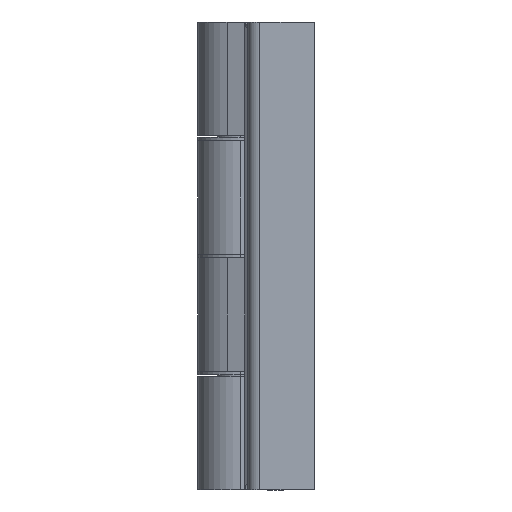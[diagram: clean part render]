
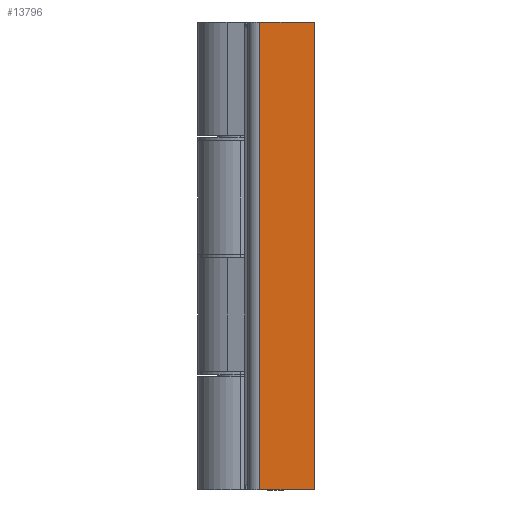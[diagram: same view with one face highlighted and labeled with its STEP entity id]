
A CAD part, left-side view. The second image highlights one B-rep face of the part: STEP entity #13796.
In plain terms, the highlighted planar face has unit normal (-1, 0, 0) as drawn and (1, 0, 0) by its records, which use the part's own axes.
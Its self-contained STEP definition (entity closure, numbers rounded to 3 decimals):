
#579 = CARTESIAN_POINT ( 'NONE',  ( 14.498, 7.026, 0. ) ) ;
#2556 = CARTESIAN_POINT ( 'NONE',  ( 14.498, 7.026, 60. ) ) ;
#2872 = LINE ( 'NONE', #33543, #33556 ) ;
#2971 = VERTEX_POINT ( 'NONE', #8585 ) ;
#3452 = DIRECTION ( 'NONE',  ( 0., 1., 0. ) ) ;
#7247 = VECTOR ( 'NONE', #14548, 1000. ) ;
#8287 = CARTESIAN_POINT ( 'NONE',  ( 14.498, 0., 0. ) ) ;
#8460 = DIRECTION ( 'NONE',  ( 0., 1., 0. ) ) ;
#8585 = CARTESIAN_POINT ( 'NONE',  ( 14.498, 0., 60. ) ) ;
#8903 = VECTOR ( 'NONE', #29180, 1000. ) ;
#10164 = ORIENTED_EDGE ( 'NONE', *, *, #13505, .F. ) ;
#11962 = LINE ( 'NONE', #2556, #7247 ) ;
#12588 = VECTOR ( 'NONE', #8460, 1000. ) ;
#13505 = EDGE_CURVE ( 'NONE', #2971, #28290, #2872, .T. ) ;
#13535 = ORIENTED_EDGE ( 'NONE', *, *, #37548, .T. ) ;
#13796 = ADVANCED_FACE ( 'NONE', ( #14622 ), #17381, .F. ) ;
#14548 = DIRECTION ( 'NONE',  ( 0., 0., 1. ) ) ;
#14622 = FACE_OUTER_BOUND ( 'NONE', #15837, .T. ) ;
#15837 = EDGE_LOOP ( 'NONE', ( #37440, #37301, #10164, #13535 ) ) ;
#16167 = LINE ( 'NONE', #28167, #12588 ) ;
#16377 = EDGE_CURVE ( 'NONE', #20322, #28290, #11962, .T. ) ;
#17206 = AXIS2_PLACEMENT_3D ( 'NONE', #26615, #25858, #26048 ) ;
#17381 = PLANE ( 'NONE',  #17206 ) ;
#20093 = EDGE_CURVE ( 'NONE', #21083, #20322, #16167, .T. ) ;
#20322 = VERTEX_POINT ( 'NONE', #579 ) ;
#21083 = VERTEX_POINT ( 'NONE', #8287 ) ;
#22511 = CARTESIAN_POINT ( 'NONE',  ( 14.498, 7.026, 60. ) ) ;
#25858 = DIRECTION ( 'NONE',  ( -1., 0., 0. ) ) ;
#26048 = DIRECTION ( 'NONE',  ( 0., 0., 1. ) ) ;
#26615 = CARTESIAN_POINT ( 'NONE',  ( 14.498, 0., 60. ) ) ;
#28167 = CARTESIAN_POINT ( 'NONE',  ( 14.498, 0., 0. ) ) ;
#28290 = VERTEX_POINT ( 'NONE', #22511 ) ;
#29180 = DIRECTION ( 'NONE',  ( 0., 0., -1. ) ) ;
#32135 = CARTESIAN_POINT ( 'NONE',  ( 14.498, 0., 60. ) ) ;
#33543 = CARTESIAN_POINT ( 'NONE',  ( 14.498, 0., 60. ) ) ;
#33556 = VECTOR ( 'NONE', #3452, 1000. ) ;
#35099 = LINE ( 'NONE', #32135, #8903 ) ;
#37301 = ORIENTED_EDGE ( 'NONE', *, *, #16377, .T. ) ;
#37440 = ORIENTED_EDGE ( 'NONE', *, *, #20093, .T. ) ;
#37548 = EDGE_CURVE ( 'NONE', #2971, #21083, #35099, .T. ) ;
